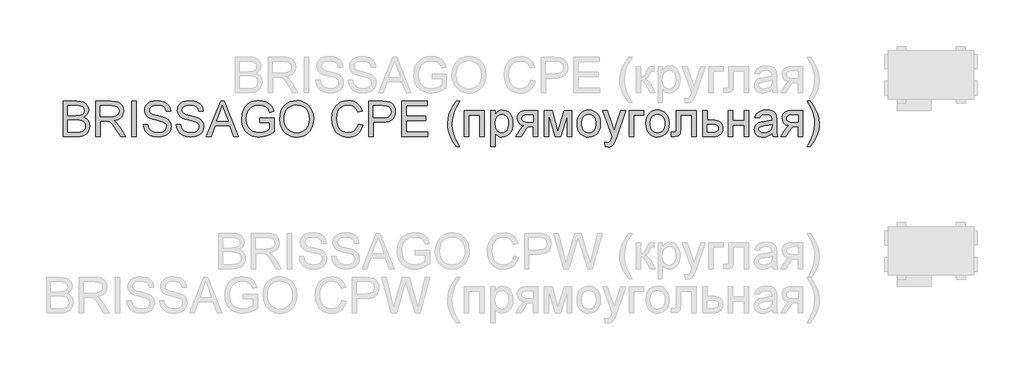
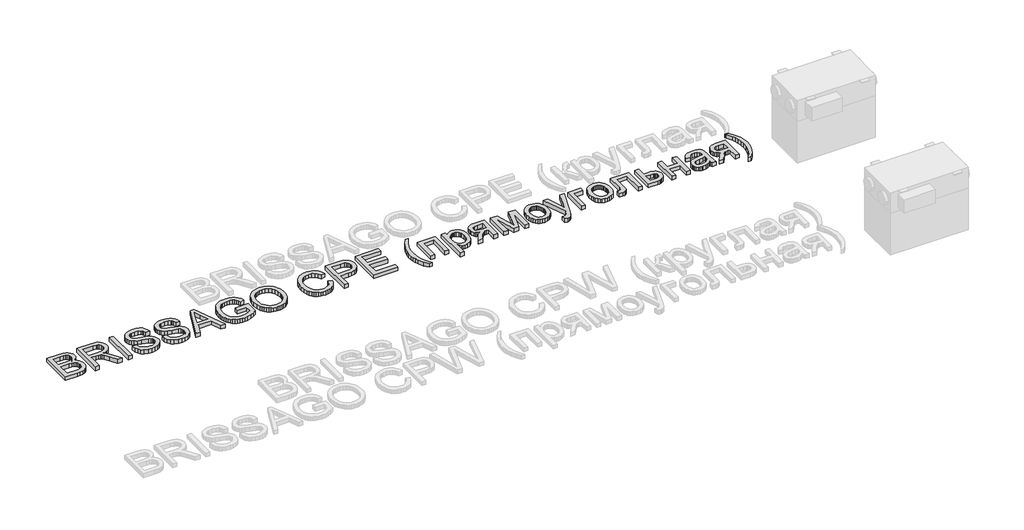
# One storey, part 18 of 28: 1 proxy.
"""IFC4 building model written with IfcOpenShell, lengths in millimetres."""

import ifcopenshell
import ifcopenshell.guid

model = None  # the IFC model being written
_history = None  # IfcOwnerHistory: only IFC2X3 demands one
_inside = {}  # id of a spatial element -> (the spatial element, [elements in it])
_under = {}  # id of a project, library or spatial element -> (it, [spatial elements below it])
_declared = {}  # id of a project -> (the project, [libraries it declares])
_typed = {}  # id of a type object -> (the type object, [elements of that type])
_made_of = {}  # id of a material, layer set ... -> (it, [elements and type objects made of it])


def new_model(schema):
    """Start an empty IFC model of exactly this schema.

    Asked for "IFC4X3", IfcOpenShell would pick the latest addendum, in which some entities
    have other attributes; the version numbers below select the first issue.
    IFC2X3 requires an IfcOwnerHistory on every rooted entity: one is made here for all.
    """
    global model, _history
    if schema == "IFC4X3":
        model = ifcopenshell.file(schema_version=(4, 3, 0, 0))
    else:
        model = ifcopenshell.file(schema=schema)
    _inside.clear()
    _under.clear()
    _declared.clear()
    _typed.clear()
    _made_of.clear()
    _history = None
    if model.schema == "IFC2X3":
        org = make("IfcOrganization", Name="unknown")
        user = make(
            "IfcPersonAndOrganization",
            ThePerson=make("IfcPerson", FamilyName="unknown"),
            TheOrganization=org,
        )
        app = make(
            "IfcApplication",
            ApplicationDeveloper=org,
            Version="unknown",
            ApplicationFullName="unknown",
            ApplicationIdentifier="unknown",
        )
        _history = make(
            "IfcOwnerHistory",
            OwningUser=user,
            OwningApplication=app,
            ChangeAction="ADDED",
            CreationDate=0,
        )
    return model


def make(cls, **values):
    """One entity of the class cls with the attributes given. An attribute that is None is left unset."""
    return model.create_entity(
        cls, **{name: value for name, value in values.items() if value is not None}
    )


def rooted(cls, **values):
    """An entity with a GlobalId (a new one), such as an element, a storey or a relation."""
    return make(cls, GlobalId=ifcopenshell.guid.new(), OwnerHistory=_history, **values)


def si_unit(unit_type, name, prefix=None):
    """IfcSIUnit, for example si_unit("LENGTHUNIT", "METRE", prefix="MILLI")."""
    return make("IfcSIUnit", UnitType=unit_type, Prefix=prefix, Name=name)


def assignment(units):
    """IfcUnitAssignment: the units of a project."""
    return None if units is None else make("IfcUnitAssignment", Units=units)


def point(xyz):
    """IfcCartesianPoint."""
    return None if xyz is None else make("IfcCartesianPoint", Coordinates=xyz)


def direction(xyz):
    """IfcDirection."""
    return None if xyz is None else make("IfcDirection", DirectionRatios=xyz)


def frame(location, z_axis=None, x_axis=None):
    """IfcAxis2Placement3D, a coordinate frame: its origin and axes. An axis left out is left unset."""
    return make(
        "IfcAxis2Placement3D",
        Location=point(location),
        Axis=direction(z_axis),
        RefDirection=direction(x_axis),
    )


def origin():
    """The frame at (0, 0, 0) with its axes left unset."""
    return frame((0.0, 0.0, 0.0))


def origin_with_axes():
    """The frame at (0, 0, 0) with the z axis (0, 0, 1) and the x axis (1, 0, 0) written out."""
    return frame((0.0, 0.0, 0.0), z_axis=(0.0, 0.0, 1.0), x_axis=(1.0, 0.0, 0.0))


def place(relative_to, where):
    """IfcLocalPlacement: puts the frame where relative to a parent placement (None: the world)."""
    return make(
        "IfcLocalPlacement", PlacementRelTo=relative_to, RelativePlacement=where
    )


def context(
    kind, dimensions, precision=None, world=None, true_north=None, identifier=None
):
    """IfcGeometricRepresentationContext, for example the 3D "Model" context."""
    return make(
        "IfcGeometricRepresentationContext",
        ContextIdentifier=identifier,
        ContextType=kind,
        CoordinateSpaceDimension=dimensions,
        Precision=precision,
        WorldCoordinateSystem=world,
        TrueNorth=true_north,
    )


def project(units=None, contexts=None):
    """IfcProject with its units and contexts."""
    return rooted(
        "IfcProject",
        Name="project",
        RepresentationContexts=contexts,
        UnitsInContext=assignment(units),
    )


def spatial(cls, under=None, at=None, **own):
    """A site, building, storey or space (cls), placed at a placement, below another one or the project."""
    s = rooted(cls, ObjectPlacement=at, **own)
    if under is not None:
        _under.setdefault(under.id(), (under, []))[1].append(s)
    return s


def polyline(points):
    """IfcPolyline through the points."""
    return make("IfcPolyline", Points=[point(p) for p in points])


def outline(outer, holes=None, kind="AREA"):
    """IfcArbitraryClosedProfileDef: a profile drawn as a closed curve; with holes, ...WithVoids."""
    if holes is None:
        return make("IfcArbitraryClosedProfileDef", ProfileType=kind, OuterCurve=outer)
    return make(
        "IfcArbitraryProfileDefWithVoids",
        ProfileType=kind,
        OuterCurve=outer,
        InnerCurves=holes,
    )


def extrude(swept, where, along, depth):
    """IfcExtrudedAreaSolid: the profile swept, set in the frame where, extruded along a direction by depth."""
    return make(
        "IfcExtrudedAreaSolid",
        SweptArea=swept,
        Position=where,
        ExtrudedDirection=direction(along),
        Depth=depth,
    )


def shape(context_of_items, identifier, shape_type, items):
    """IfcShapeRepresentation: the items that make up one representation, for example the "Body"."""
    return make(
        "IfcShapeRepresentation",
        ContextOfItems=context_of_items,
        RepresentationIdentifier=identifier,
        RepresentationType=shape_type,
        Items=items,
    )


def made_of(thing, what):
    """Note that an element or type object is made of a material, layer set ...; save() writes the relation."""
    if what is not None:
        _made_of.setdefault(what.id(), (what, []))[1].append(thing)
    return thing


def element(
    cls,
    number,
    at=None,
    inside=None,
    cuts=None,
    type_object=None,
    material=None,
    context=None,
    identifier="Body",
    shape_type=None,
    held_by="IfcProductDefinitionShape",
    body=None,
    shapes=None,
    **own,
):
    """One element of the class cls, such as IfcWall. Its Tag is "e" and its number.

    at: its placement. inside: the storey or other place that contains it. cuts: it is an
    opening in that element (IfcRelVoidsElement). A single representation is given by context,
    identifier, shape_type and body (its items); several are given by shapes. held_by: the class
    of the entity that holds the representations. save() writes the other relations.
    """
    e = rooted(cls, Tag="e%d" % number, ObjectPlacement=at, **own)
    if body is not None:
        shapes = [shape(context, identifier, shape_type, body)]
    if shapes is not None:
        e.Representation = make(held_by, Representations=shapes)
    if inside is not None:
        _inside.setdefault(inside.id(), (inside, []))[1].append(e)
    if cuts is not None:
        rooted(
            "IfcRelVoidsElement", RelatingBuildingElement=cuts, RelatedOpeningElement=e
        )
    if type_object is not None:
        _typed.setdefault(type_object.id(), (type_object, []))[1].append(e)
    return made_of(e, material)


def aggregate(whole, parts):
    """IfcRelAggregates: a whole, such as a stair, and the parts it consists of."""
    return rooted("IfcRelAggregates", RelatingObject=whole, RelatedObjects=parts)


def save(model, path):
    """Write the relations noted so far, then the file.

    IfcRelAggregates (storeys below a building ...), IfcRelContainedInSpatialStructure (elements
    in a storey), IfcRelDefinesByType, IfcRelAssociatesMaterial and IfcRelDeclares: one each for
    every whole, place, type object, material and project.
    """
    for whole, parts in _under.values():
        aggregate(whole, parts)
    for where, things in _inside.values():
        rooted(
            "IfcRelContainedInSpatialStructure",
            RelatedElements=things,
            RelatingStructure=where,
        )
    for kind, things in _typed.values():
        rooted("IfcRelDefinesByType", RelatedObjects=things, RelatingType=kind)
    for what, things in _made_of.values():
        rooted("IfcRelAssociatesMaterial", RelatedObjects=things, RelatingMaterial=what)
    for by, libraries in _declared.values():
        rooted("IfcRelDeclares", RelatingContext=by, RelatedDefinitions=libraries)
    model.write(path)


model = new_model("IFC4")

# Units and contexts
model_context = context("Model", 3, world=origin())
ifc_project = project(units=[si_unit("LENGTHUNIT", "METRE", prefix="MILLI")], contexts=[model_context])

# Site, building, storey
site = spatial("IfcSite", under=ifc_project)
building = spatial("IfcBuilding", under=site)
storey = spatial("IfcBuildingStorey", under=building, Name="Уровень 1", Elevation=0.0)

# Proxy
placement = place(None, origin())
element("IfcBuildingElementProxy", 1, Name="400 мм Arial", ObjectType="400 мм Arial", at=placement, inside=storey, context=model_context, shape_type="SweptSolid", body=[
    extrude(outline(polyline([(-30517.6155506, 9771.3067858), (-30517.6155506, 10173.1320263), (-30364.282335, 10173.1320263), (-30322.1107957, 10170.1767077), (-30289.1853571, 10161.3107516), (-30263.9486522, 10146.3134289), (-30244.8433139, 10124.9640104), (-30232.8135727, 10099.8499329), (-30228.803659, 10073.558633), (-30232.1759106, 10049.3642604), (-30242.2926654, 10026.6168904), (-30259.2275, 10006.7144745), (-30283.0539905, 9991.0549642), (-30254.5921868, 9976.1925316), (-30233.5615994, 9953.5800516), (-30220.575365, 9924.7135777), (-30216.2466202, 9891.0891634), (-30219.2019389, 9863.0688181), (-30228.067895, 9837.0840865), (-30241.2993841, 9814.9866413), (-30257.3513018, 9798.6281553), (-30277.0084631, 9786.782355), (-30301.0556828, 9778.2229673), (-30330.277776, 9773.0358311), (-30365.4595574, 9771.3067858), (-30517.6155506, 9771.3067858)]), holes=[polyline([(-30467.3873956, 10009.8905224), (-30375.6621514, 10009.8905224), (-30322.0985329, 10014.2070044), (-30303.3488139, 10021.6504835), (-30289.8720702, 10032.7973079), (-30281.7418781, 10047.4757995), (-30279.031814, 10065.51428), (-30281.5579371, 10083.025463), (-30289.1363062, 10098.2803031), (-30301.4235648, 10110.187417), (-30318.0763565, 10117.6554215), (-30343.6318924, 10121.5917588), (-30382.6273839, 10122.9038713), (-30467.3873956, 10122.9038713), (-30467.3873956, 10009.8905224)]), polyline([(-30467.3873956, 9821.5349408), (-30364.3804369, 9821.5349408), (-30327.1017281, 9823.4969781), (-30295.5619783, 9834.4353361), (-30283.9859582, 9843.8653779), (-30274.666281, 9856.7535105), (-30268.5226517, 9872.5233854), (-30266.4747753, 9890.5986541), (-30268.878271, 9911.5924532), (-30276.0887581, 9929.6431965), (-30288.682585, 9943.7576024), (-30307.2361003, 9952.9423895), (-30333.5151375, 9957.9823728), (-30369.2855302, 9959.6623673), (-30467.3873956, 9959.6623673), (-30467.3873956, 9821.5349408)])]), origin_with_axes(), (0.0, 0.0, 1.0), 50.0),
    extrude(outline(polyline([(-30147.182907, 9771.3067858), (-30147.182907, 10173.1320263), (-29974.0331146, 10173.1320263), (-29927.4960422, 10170.4219623), (-29893.6386359, 10162.2917702), (-29868.8924403, 10147.2821848), (-29849.6890002, 10123.9339409), (-29837.3649534, 10094.9816278), (-29833.2569377, 10063.1598353), (-29834.958392, 10042.5216553), (-29840.0627547, 10023.5757326), (-29848.5700258, 10006.322067), (-29860.4802054, 9990.7606586), (-29875.9465776, 9977.3881481), (-29895.1224266, 9966.7011761), (-29918.0077524, 9958.6997427), (-29944.6025549, 9953.3838479), (-29916.0549121, 9931.8995394), (-29875.342638, 9880.1998563), (-29808.3390639, 9771.3067858), (-29866.7096738, 9771.3067858), (-29918.9979681, 9854.5952695), (-29956.7671863, 9909.7285178), (-29970.8080157, 9925.804961), (-29983.3037408, 9935.7745631), (-30007.1915451, 9945.3394949), (-30036.3277991, 9947.1053285), (-30096.9547519, 9947.1053285), (-30096.9547519, 9771.3067858), (-30147.182907, 9771.3067858)]), holes=[polyline([(-30096.9547519, 9997.3334836), (-29984.5300142, 9997.3334836), (-29952.2422377, 9999.1115799), (-29927.1894738, 10004.4458688), (-29908.3293902, 10013.6919696), (-29894.6196545, 10027.2055016), (-29886.2687332, 10043.5517249), (-29883.4850928, 10061.2958998), (-29888.7948563, 10085.7968407), (-29904.7241467, 10105.5398411), (-29916.8857123, 10113.1366043), (-29932.1313553, 10118.5628637), (-29971.8748735, 10122.9038713), (-30096.9547519, 10122.9038713), (-30096.9547519, 9997.3334836)])]), origin_with_axes(), (0.0, 0.0, 1.0), 50.0),
    extrude(outline(polyline([(-29739.079147, 9771.3067858), (-29739.079147, 10173.1320263), (-29688.8509919, 10173.1320263), (-29688.8509919, 9771.3067858), (-29739.079147, 9771.3067858)])), origin_with_axes(), (0.0, 0.0, 1.0), 50.0),
    extrude(outline(polyline([(-29607.2302399, 9909.4342122), (-29557.0020848, 9909.4342122), (-29551.2386002, 9881.5610197), (-29540.815277, 9859.1570062), (-29524.5548929, 9841.3760431), (-29501.2802253, 9827.3720018), (-29472.8306843, 9818.2853165), (-29441.04568, 9815.2564214), (-29413.0621229, 9817.5495525), (-29388.561182, 9824.4289459), (-29368.707817, 9835.3182529), (-29354.6669875, 9849.6411253), (-29346.3160662, 9866.0854504), (-29343.5324258, 9883.339116), (-29345.6170904, 9900.1513232), (-29351.8710843, 9914.682662), (-29364.5752759, 9927.0802852), (-29386.0105335, 9937.4913457), (-29459.1454741, 9956.6702604), (-29507.1540745, 9969.3621892), (-29537.8722211, 9981.4409814), (-29562.875934, 9998.3390277), (-29580.5955835, 10018.8177921), (-29591.1537967, 10042.4358162), (-29594.6732011, 10068.7516416), (-29590.3199309, 10098.1699385), (-29577.26012, 10125.6016726), (-29555.8371252, 10148.8518147), (-29526.3943028, 10165.7253355), (-29491.0531058, 10175.9892432), (-29451.934987, 10179.4105457), (-29409.5549812, 10175.8298276), (-29372.4724761, 10165.0876734), (-29342.0118468, 10147.4048122), (-29319.4974687, 10123.0019731), (-29305.2481728, 10093.3997353), (-29299.5827901, 10060.1186774), (-29349.8109451, 10060.1186774), (-29359.0325205, 10090.0887973), (-29367.3957045, 10101.9468603), (-29378.2604861, 10111.7202586), (-29408.3041824, 10124.8168576), (-29449.9729497, 10129.1823907), (-29492.6227357, 10124.8659086), (-29508.9260394, 10119.470306), (-29521.881617, 10111.9164624), (-29538.8041888, 10092.860175), (-29544.4450461, 10070.2231696), (-29540.447395, 10050.9216276), (-29528.454442, 10035.3970074), (-29500.1030029, 10021.5155934), (-29446.4412825, 10007.3398739), (-29391.0627795, 9993.8753928), (-29357.5609925, 9982.1276945), (-29328.9275106, 9963.905273), (-29308.9515182, 9941.4154203), (-29297.2160826, 9914.9033912), (-29293.3042707, 9884.6144403), (-29297.8046938, 9853.651039), (-29311.305963, 9824.5270477), (-29333.2562554, 9799.4620211), (-29363.1037479, 9780.6755139), (-29398.9967679, 9768.9400782), (-29439.0836426, 9765.0282664), (-29488.2939909, 9769.2466466), (-29528.7977985, 9781.9017872), (-29561.0610495, 9803.0427392), (-29585.5497277, 9832.7185535), (-29601.2705516, 9868.8690909), (-29607.2302399, 9909.4342122)])), origin_with_axes(), (0.0, 0.0, 1.0), 50.0),
    extrude(outline(polyline([(-29236.7975962, 9909.4342122), (-29186.5694412, 9909.4342122), (-29180.8059566, 9881.5610197), (-29170.3826334, 9859.1570062), (-29154.1222492, 9841.3760431), (-29130.8475816, 9827.3720018), (-29102.3980407, 9818.2853165), (-29070.6130363, 9815.2564214), (-29042.6294792, 9817.5495525), (-29018.1285383, 9824.4289459), (-28998.2751733, 9835.3182529), (-28984.2343438, 9849.6411253), (-28975.8834225, 9866.0854504), (-28973.0997821, 9883.339116), (-28975.1844467, 9900.1513232), (-28981.4384406, 9914.682662), (-28994.1426322, 9927.0802852), (-29015.5778898, 9937.4913457), (-29088.7128304, 9956.6702604), (-29136.7214308, 9969.3621892), (-29167.4395774, 9981.4409814), (-29192.4432903, 9998.3390277), (-29210.1629398, 10018.8177921), (-29220.721153, 10042.4358162), (-29224.2405575, 10068.7516416), (-29219.8872872, 10098.1699385), (-29206.8274764, 10125.6016726), (-29185.4044815, 10148.8518147), (-29155.9616592, 10165.7253355), (-29120.6204622, 10175.9892432), (-29081.5023433, 10179.4105457), (-29039.1223375, 10175.8298276), (-29002.0398324, 10165.0876734), (-28971.5792032, 10147.4048122), (-28949.0648251, 10123.0019731), (-28934.8155291, 10093.3997353), (-28929.1501464, 10060.1186774), (-28979.3783015, 10060.1186774), (-28988.5998768, 10090.0887973), (-28996.9630608, 10101.9468603), (-29007.8278424, 10111.7202586), (-29037.8715387, 10124.8168576), (-29079.540306, 10129.1823907), (-29122.190092, 10124.8659086), (-29138.4933958, 10119.470306), (-29151.4489733, 10111.9164624), (-29168.3715451, 10092.860175), (-29174.0124024, 10070.2231696), (-29170.0147514, 10050.9216276), (-29158.0217983, 10035.3970074), (-29129.6703592, 10021.5155934), (-29076.0086389, 10007.3398739), (-29020.6301359, 9993.8753928), (-28987.1283488, 9982.1276945), (-28958.4948669, 9963.905273), (-28938.5188745, 9941.4154203), (-28926.7834389, 9914.9033912), (-28922.871627, 9884.6144403), (-28927.3720501, 9853.651039), (-28940.8733193, 9824.5270477), (-28962.8236117, 9799.4620211), (-28992.6711042, 9780.6755139), (-29028.5641242, 9768.9400782), (-29068.650999, 9765.0282664), (-29117.8613472, 9769.2466466), (-29158.3651549, 9781.9017872), (-29190.6284058, 9803.0427392), (-29215.117084, 9832.7185535), (-29230.8379079, 9868.8690909), (-29236.7975962, 9909.4342122)])), origin_with_axes(), (0.0, 0.0, 1.0), 50.0),
    extrude(outline(polyline([(-28894.3239842, 9771.3067858), (-28733.9274343, 10173.1320263), (-28691.155021, 10173.1320263), (-28530.7584711, 9771.3067858), (-28583.8315803, 9771.3067858), (-28629.8413551, 9896.8771734), (-28795.339202, 9896.8771734), (-28841.250875, 9771.3067858), (-28894.3239842, 9771.3067858)]), holes=[polyline([(-28776.8960513, 9947.1053285), (-28648.1864039, 9947.1053285), (-28684.3859923, 10045.893907), (-28712.5412276, 10122.9038713), (-28737.5572033, 10054.5268711), (-28776.8960513, 9947.1053285)])]), origin_with_axes(), (0.0, 0.0, 1.0), 50.0),
    extrude(outline(polyline([(-28288.7411692, 9928.2697704), (-28288.7411692, 9978.4979254), (-28125.4996652, 9978.4979254), (-28125.4996652, 9828.3039695), (-28165.169607, 9800.7128199), (-28206.0903476, 9780.9207686), (-28248.1637851, 9769.0013919), (-28291.2918177, 9765.0282664), (-28320.1429632, 9766.6070933), (-28347.6390766, 9771.343574), (-28373.7801581, 9779.2377084), (-28398.5662075, 9790.2894967), (-28421.1970816, 9804.3333919), (-28440.8726369, 9821.203847), (-28457.5928736, 9840.9008622), (-28471.3577916, 9863.4244373), (-28482.1091429, 9888.0541369), (-28489.7886796, 9914.0695253), (-28494.3964015, 9941.4706026), (-28495.9323089, 9970.2573687), (-28489.813205, 10026.8498823), (-28482.1643252, 10053.6654141), (-28471.4558935, 10079.4937958), (-28457.8779822, 10103.2007247), (-28441.6206637, 10123.651898), (-28422.683938, 10140.8473156), (-28401.0678051, 10154.7869775), (-28377.2413145, 10165.5597886), (-28351.6735158, 10173.2546537), (-28324.3644091, 10177.8715727), (-28295.3139942, 10179.4105457), (-28253.9395324, 10175.8420904), (-28216.7344, 10165.1367243), (-28185.4031167, 10148.0669997), (-28161.6502026, 10125.4054688), (-28144.077706, 10096.0607484), (-28131.2876753, 10058.941455), (-28177.5917557, 10045.893907), (-28187.9292398, 10072.3691479), (-28200.4985413, 10092.3451402), (-28217.1268075, 10107.4037765), (-28239.6411856, 10119.1269495), (-28266.4843085, 10126.6685304), (-28296.0988091, 10129.1823907), (-28330.7655558, 10126.4723266), (-28360.4045819, 10118.3421345), (-28384.9055227, 10105.8096212), (-28404.1580138, 10089.8925936), (-28418.9346073, 10071.4126547), (-28430.0078553, 10051.1914077), (-28441.7800792, 10013.2750367), (-28445.7041538, 9972.3175079), (-28440.9830015, 9924.2843821), (-28426.8195447, 9884.7615931), (-28403.642979, 9854.0311837), (-28371.8825001, 9832.375197), (-28334.7141559, 9819.5361153), (-28295.3139942, 9815.2564214), (-28260.5246202, 9818.4815203), (-28226.5936375, 9828.1568167), (-28197.1262897, 9841.4864077), (-28175.7278203, 9855.67439), (-28175.7278203, 9928.2697704), (-28288.7411692, 9928.2697704)])), origin_with_axes(), (0.0, 0.0, 1.0), 50.0),
    extrude(outline(polyline([(-28062.7144714, 9966.9219053), (-28059.3667452, 10014.0537203), (-28049.3235667, 10055.7776699), (-28032.584936, 10092.0937542), (-28009.1508529, 10123.0019731), (-27980.4254004, 10147.6807237), (-27947.8126615, 10165.3084026), (-27911.3126362, 10175.8850099), (-27870.9253245, 10179.4105457), (-27843.8921293, 10177.7550768), (-27818.2200974, 10172.7886698), (-27793.9092288, 10164.5113249), (-27770.9595237, 10152.9230421), (-27750.0147755, 10138.3733092), (-27731.7187776, 10121.2116141), (-27716.07153, 10101.4379569), (-27703.0730329, 10079.0523374), (-27692.8581761, 10054.5636593), (-27685.5618499, 10028.4808258), (-27679.7247889, 9971.532693), (-27681.2606962, 9941.8752728), (-27685.8684182, 9913.8242707), (-27693.5479549, 9887.3796866), (-27704.2993062, 9862.5415206), (-27717.8680204, 9839.9658288), (-27733.9996459, 9820.3086675), (-27752.6941827, 9803.5700367), (-27773.9516306, 9789.7499364), (-27796.9350583, 9778.9342058), (-27820.8075341, 9771.2086839), (-27845.569058, 9766.5733707), (-27871.2196301, 9765.0282664), (-27898.7249406, 9766.735852), (-27924.7341977, 9771.8586087), (-27949.2474013, 9780.3965367), (-27972.2645515, 9792.3496359), (-27993.1847743, 9807.254988), (-28011.4071958, 9824.6496751), (-28026.931816, 9844.5336969), (-28039.7586349, 9866.9070536), (-28056.9755122, 9915.5287906), (-28062.7144714, 9966.9219053)]), holes=[polyline([(-28012.4863163, 9966.431396), (-28009.9755217, 9933.1319441), (-28002.4431378, 9903.5726258), (-27989.8891647, 9877.7534411), (-27972.3136024, 9855.67439), (-27950.9488555, 9837.9915287), (-27927.0273288, 9825.3609136), (-27900.5490222, 9817.7825445), (-27871.5139357, 9815.2564214), (-27841.9822086, 9817.8070699), (-27815.1912023, 9825.4590154), (-27791.1409168, 9838.2122579), (-27769.8313523, 9856.0667974), (-27752.3845486, 9878.6118324), (-27739.9225461, 9905.4365612), (-27732.4453445, 9936.5409839), (-27729.952944, 9971.9251005), (-27734.2203751, 10016.3897709), (-27747.0226686, 10054.8211767), (-27768.0287305, 10086.2505618), (-27796.9074671, 10109.7091704), (-27831.7458921, 10124.3140856), (-27870.6310189, 10129.1823907), (-27898.6574956, 10126.8371429), (-27924.6606213, 10119.8013998), (-27948.640396, 10108.0751612), (-27970.5968198, 10091.6584272), (-27988.9234745, 10069.7602514), (-28002.0139422, 10041.5896876), (-28009.8682227, 10007.1467358), (-28012.4863163, 9966.431396)])]), origin_with_axes(), (0.0, 0.0, 1.0), 50.0),
    extrude(outline(polyline([(-27171.1647188, 9914.1431017), (-27120.9365637, 9901.1936555), (-27130.8755089, 9869.9574084), (-27144.1131294, 9842.6636301), (-27160.6494251, 9819.3123204), (-27180.484396, 9799.9034795), (-27203.1704524, 9784.6455738), (-27228.2600044, 9773.7470697), (-27255.7530522, 9767.2079672), (-27285.6495957, 9765.0282664), (-27316.2788375, 9766.677604), (-27343.909841, 9771.6256168), (-27368.5426062, 9779.8723049), (-27390.1771332, 9791.4176682), (-27409.1107933, 9806.0900284), (-27425.6409576, 9823.7177073), (-27439.7676262, 9844.300705), (-27451.4907991, 9867.8390213), (-27467.2729367, 9919.7103826), (-27472.5336492, 9975.2605639), (-27466.5862236, 10033.851903), (-27459.1519417, 10060.1493343), (-27448.7439469, 10084.44794), (-27435.5952312, 10106.3461158), (-27419.9387866, 10125.442257), (-27401.7746131, 10141.7363637), (-27381.1027107, 10155.2284359), (-27358.6251208, 10165.808109), (-27335.0438849, 10173.3650183), (-27284.5704752, 10179.4105457), (-27255.841957, 10177.4546398), (-27229.4985405, 10171.586922), (-27205.5402255, 10161.8073923), (-27183.9670122, 10148.1160507), (-27165.1345197, 10130.8746478), (-27149.3983674, 10110.4449344), (-27136.7585552, 10086.8269103), (-27127.2150831, 10060.0205756), (-27177.4432382, 10048.052148), (-27194.8563193, 10084.680932), (-27218.6460216, 10109.8072722), (-27249.1066508, 10124.3386111), (-27286.5325125, 10129.1823907), (-27329.6728078, 10123.8113135), (-27348.3550818, 10117.0974671), (-27365.1121066, 10107.6980821), (-27392.0042805, 10082.5349537), (-27409.5032007, 10050.0141853), (-27419.1049208, 10013.2505112), (-27422.3054942, 9975.3586657), (-27418.5163096, 9928.9564834), (-27407.148756, 9888.8328205), (-27387.7736375, 9856.5205186), (-27359.9617587, 9833.5524193), (-27326.6193872, 9819.8304209), (-27290.6527908, 9815.2564214), (-27268.8159287, 9816.8137886), (-27248.7265061, 9821.4858899), (-27230.384523, 9829.2727255), (-27213.7899793, 9840.1742952), (-27199.3352826, 9854.1415483), (-27187.4128402, 9871.1254338), (-27178.0226523, 9891.1259516), (-27171.1647188, 9914.1431017)])), origin_with_axes(), (0.0, 0.0, 1.0), 50.0),
    extrude(outline(polyline([(-27051.8728505, 9771.3067858), (-27051.8728505, 10173.1320263), (-26902.9542188, 10173.1320263), (-26842.9158772, 10169.3060536), (-26816.1463307, 10162.1568802), (-26794.1101992, 10150.5195464), (-26776.3660243, 10133.8667547), (-26762.4723476, 10111.6712077), (-26753.4960269, 10085.4902724), (-26750.50392, 10056.8813159), (-26752.5242053, 10032.2148281), (-26758.5850612, 10009.5226404), (-26768.6864876, 9988.8047527), (-26782.8284847, 9970.061165), (-26802.243457, 9954.5242821), (-26828.1638092, 9943.4265086), (-26860.5895414, 9936.7678444), (-26899.5206535, 9934.5482897), (-27001.6446954, 9934.5482897), (-27001.6446954, 9771.3067858), (-27051.8728505, 9771.3067858)]), holes=[polyline([(-27001.6446954, 9984.7764448), (-26896.5775976, 9984.7764448), (-26852.0393507, 9989.3872325), (-26835.43561, 9995.1507171), (-26822.6087911, 10003.2195955), (-26813.0377278, 10013.3792699), (-26806.2012541, 10025.4151426), (-26800.7320751, 10055.1154823), (-26803.9571739, 10077.6789113), (-26813.6324704, 10096.7106732), (-26828.5562167, 10111.0335456), (-26847.5266649, 10119.470306), (-26897.75482, 10122.9038713), (-27001.6446954, 10122.9038713), (-27001.6446954, 9984.7764448)])]), origin_with_axes(), (0.0, 0.0, 1.0), 50.0),
    extrude(outline(polyline([(-26681.4402068, 9771.3067858), (-26681.4402068, 10173.1320263), (-26392.6283151, 10173.1320263), (-26392.6283151, 10122.9038713), (-26631.2120517, 10122.9038713), (-26631.2120517, 10003.612003), (-26405.1853539, 10003.612003), (-26405.1853539, 9953.3838479), (-26631.2120517, 9953.3838479), (-26631.2120517, 9821.5349408), (-26386.3497957, 9821.5349408), (-26386.3497957, 9771.3067858), (-26681.4402068, 9771.3067858)])), origin_with_axes(), (0.0, 0.0, 1.0), 50.0),
    extrude(outline(polyline([(-26059.8667877, 9658.2934368), (-26098.7887028, 9712.9116504), (-26131.1868439, 9776.1137772), (-26143.933955, 9810.1673872), (-26153.0390344, 9844.8341339), (-26158.502082, 9880.1140172), (-26160.3230979, 9916.0070372), (-26154.8784444, 9978.424349), (-26138.5444838, 10038.1438596), (-26106.1218173, 10105.7850958), (-26059.8667877, 10173.1320263), (-26022.1956714, 10173.1320263), (-26069.186465, 10093.5714135), (-26085.2261199, 10055.8021954), (-26097.4398022, 10016.4633473), (-26106.9311577, 9966.2106668), (-26110.0949428, 9915.7127316), (-26104.6012384, 9851.3211197), (-26088.120125, 9786.9540333), (-26060.6516027, 9722.6114723), (-26022.1956714, 9658.2934368), (-26059.8667877, 9658.2934368)])), origin_with_axes(), (0.0, 0.0, 1.0), 50.0),
    extrude(outline(polyline([(-25971.9675164, 10066.3971968), (-25745.9408185, 10066.3971968), (-25745.9408185, 9771.3067858), (-25796.1689736, 9771.3067858), (-25796.1689736, 10016.1690417), (-25921.7393613, 10016.1690417), (-25921.7393613, 9771.3067858), (-25971.9675164, 9771.3067858), (-25971.9675164, 10066.3971968)])), origin_with_axes(), (0.0, 0.0, 1.0), 50.0),
    extrude(outline(polyline([(-25670.5985859, 9658.2934368), (-25670.5985859, 10066.3971968), (-25620.3704308, 10066.3971968), (-25620.3704308, 10017.1500604), (-25603.9874193, 10041.4425348), (-25585.6423705, 10058.7943022), (-25564.2561638, 10069.2053627), (-25538.7496788, 10072.6757162), (-25504.781908, 10067.8196739), (-25475.0815682, 10053.2515469), (-25450.8994584, 10029.854252), (-25433.4863773, 9998.510706), (-25422.9649522, 9961.5017773), (-25419.4578105, 9921.1083342), (-25423.4186734, 9878.1519799), (-25435.3012618, 9839.7328369), (-25454.7254311, 9807.8006797), (-25481.3110367, 9784.3052829), (-25512.2744379, 9769.8475205), (-25544.8319945, 9765.0282664), (-25567.9227211, 9768.2533652), (-25588.5363755, 9777.9286617), (-25606.1824486, 9792.5335769), (-25620.3704308, 9810.5475319), (-25620.3704308, 9658.2934368), (-25670.5985859, 9658.2934368)]), holes=[polyline([(-25620.3704308, 9916.4975465), (-25614.93804, 9871.4687903), (-25608.1475516, 9854.0311837), (-25598.6408677, 9839.9780915), (-25574.5936479, 9821.436839), (-25560.8317956, 9816.8015258), (-25545.911115, 9815.2564214), (-25530.7758366, 9816.8567081), (-25516.7625983, 9821.6575682), (-25503.8714, 9829.6590016), (-25492.1022419, 9840.8610083), (-25482.295121, 9855.4230039), (-25475.2900347, 9873.504404), (-25471.0869829, 9895.1052085), (-25469.6859656, 9920.2254174), (-25475.1551446, 9965.0089189), (-25481.9916184, 9982.5814156), (-25491.5626816, 9996.9410761), (-25515.5731132, 10016.0709399), (-25529.1786156, 10020.8534058), (-25543.8509758, 10022.4475611), (-25558.4773508, 10020.7522383), (-25572.2392031, 10015.6662697), (-25597.1693397, 9995.3223953), (-25607.3198171, 9980.2239051), (-25614.5701581, 9962.0536003), (-25618.9203626, 9940.8114807), (-25620.3704308, 9916.4975465)])]), origin_with_axes(), (0.0, 0.0, 1.0), 50.0),
    extrude(outline(polyline([(-25136.9244382, 10066.3971968), (-25136.9244382, 9771.3067858), (-25187.1525933, 9771.3067858), (-25187.1525933, 9884.3201347), (-25214.5230138, 9884.3201347), (-25236.3506788, 9882.7259794), (-25251.8017226, 9877.9435134), (-25266.6886807, 9864.037574), (-25286.8240885, 9835.0729982), (-25326.8496496, 9771.3067858), (-25384.9259539, 9771.3067858), (-25334.5015951, 9851.9465191), (-25312.2324717, 9880.8865694), (-25291.7291818, 9893.7379137), (-25326.0648347, 9904.2593388), (-25339.4066884, 9913.0701126), (-25350.1978936, 9924.2475939), (-25364.471715, 9950.8331994), (-25369.2296555, 9981.1466758), (-25367.6048433, 9999.2342072), (-25362.7304069, 10015.5313796), (-25354.6063462, 10030.038193), (-25343.2326611, 10042.7546473), (-25328.7810301, 10053.0982627), (-25311.4231313, 10060.4865594), (-25291.1589647, 10064.9195375), (-25267.9885304, 10066.3971968), (-25136.9244382, 10066.3971968)]), holes=[polyline([(-25187.1525933, 10016.1690417), (-25253.3713525, 10016.1690417), (-25287.5721153, 10013.262774), (-25306.9840219, 10004.5439707), (-25315.9971308, 9991.9256183), (-25319.0015004, 9977.3207031), (-25314.5746537, 9958.1785766), (-25301.2941137, 9944.8980365), (-25276.7563846, 9937.1357264), (-25238.5579708, 9934.5482897), (-25187.1525933, 9934.5482897), (-25187.1525933, 10016.1690417)])]), origin_with_axes(), (0.0, 0.0, 1.0), 50.0),
    extrude(outline(polyline([(-25061.5822056, 10066.3971968), (-24975.1544622, 10066.3971968), (-24908.5432956, 9830.167905), (-24836.7327302, 10066.3971968), (-24753.9347558, 10066.3971968), (-24753.9347558, 9771.3067858), (-24804.1629109, 9771.3067858), (-24804.1629109, 10008.9095037), (-24876.3658838, 9771.3067858), (-24942.2903373, 9771.3067858), (-25011.3540506, 10020.2893201), (-25011.3540506, 9771.3067858), (-25061.5822056, 9771.3067858), (-25061.5822056, 10066.3971968)])), origin_with_axes(), (0.0, 0.0, 1.0), 50.0),
    extrude(outline(polyline([(-24691.149562, 9918.8519913), (-24688.4333666, 9957.0687992), (-24680.2847804, 9990.0003692), (-24666.7038034, 10017.6467011), (-24647.6904356, 10040.007795), (-24628.5483091, 10054.3000105), (-24607.4196199, 10064.5087359), (-24584.3043678, 10070.6339711), (-24559.202553, 10072.6757162), (-24531.4918417, 10070.189447), (-24506.4360122, 10062.7306396), (-24484.0350644, 10050.2992938), (-24464.2889983, 10032.8954098), (-24448.1727012, 10011.1075986), (-24436.6610604, 9985.5244715), (-24429.754076, 9956.1460285), (-24427.4517478, 9922.9722696), (-24431.5229752, 9872.2290798), (-24443.7366575, 9833.6014703), (-24463.7371753, 9804.6736827), (-24491.1689094, 9783.0299587), (-24523.7509914, 9769.5286894), (-24559.202553, 9765.0282664), (-24587.3179345, 9767.5053385), (-24612.606756, 9774.9365548), (-24635.0690175, 9787.3219153), (-24654.704719, 9804.66142), (-24670.6493378, 9826.6607633), (-24682.0383512, 9853.0256396), (-24688.8717593, 9883.7560489), (-24691.149562, 9918.8519913)]), holes=[polyline([(-24640.9214069, 9918.9500931), (-24639.468273, 9894.587108), (-24635.1088714, 9873.4921413), (-24627.843202, 9855.6651929), (-24617.6712648, 9841.106263), (-24605.298167, 9829.7969573), (-24591.4290158, 9821.7188818), (-24576.0638111, 9816.8720365), (-24559.202553, 9815.2564214), (-24542.427134, 9816.8812336), (-24527.123243, 9821.75567), (-24513.29088, 9829.8797308), (-24500.930045, 9841.2534158), (-24490.7581078, 9855.9564328), (-24483.4924384, 9874.0684897), (-24479.1330368, 9895.5895865), (-24477.6799029, 9920.519723), (-24479.1422338, 9944.1101559), (-24483.5292266, 9964.6532997), (-24490.8408813, 9982.1491542), (-24501.0771978, 9996.5977196), (-24513.4840181, 10007.9070253), (-24527.307184, 10015.9851007), (-24542.5466957, 10020.831946), (-24559.202553, 10022.4475611), (-24576.0638111, 10020.8380774), (-24591.4290158, 10016.0096262), (-24605.298167, 10007.9622076), (-24617.6712648, 9996.6958215), (-24627.843202, 9982.1798111), (-24635.1088714, 9964.3835196), (-24639.468273, 9943.3069469), (-24640.9214069, 9918.9500931)])]), origin_with_axes(), (0.0, 0.0, 1.0), 50.0),
    extrude(outline(polyline([(-24370.9450734, 9658.2934368), (-24377.2235927, 9706.6576565), (-24351.7171077, 9702.2430725), (-24338.3016777, 9703.6287614), (-24327.8783545, 9707.7858279), (-24313.2611765, 9723.2368717), (-24299.5269154, 9760.221275), (-24295.6028407, 9772.3859063), (-24402.3376703, 10066.3971968), (-24349.362663, 10066.3971968), (-24292.7578866, 9902.5670816), (-24273.0394117, 9837.0350356), (-24253.3209368, 9894.9151361), (-24195.1465306, 10066.3971968), (-24142.5639308, 10066.3971968), (-24245.2765838, 9764.2434514), (-24271.9602912, 9698.7114054), (-24285.6209759, 9677.7911826), (-24301.0965452, 9663.296632), (-24319.073712, 9654.8353461), (-24340.2391895, 9652.0149174), (-24370.9450734, 9658.2934368)])), origin_with_axes(), (0.0, 0.0, 1.0), 50.0),
    extrude(outline(polyline([(-24100.9687398, 10066.3971968), (-23937.7272358, 10066.3971968), (-23937.7272358, 10016.1690417), (-24050.7405848, 10016.1690417), (-24050.7405848, 9771.3067858), (-24100.9687398, 9771.3067858), (-24100.9687398, 10066.3971968)])), origin_with_axes(), (0.0, 0.0, 1.0), 50.0),
    extrude(outline(polyline([(-23912.6131583, 9918.8519913), (-23909.8969629, 9957.0687992), (-23901.7483767, 9990.0003692), (-23888.1673997, 10017.6467011), (-23869.1540319, 10040.007795), (-23850.0119055, 10054.3000105), (-23828.8832162, 10064.5087359), (-23805.7679642, 10070.6339711), (-23780.6661494, 10072.6757162), (-23752.9554381, 10070.189447), (-23727.8996085, 10062.7306396), (-23705.4986607, 10050.2992938), (-23685.7525946, 10032.8954098), (-23669.6362975, 10011.1075986), (-23658.1246568, 9985.5244715), (-23651.2176723, 9956.1460285), (-23648.9153442, 9922.9722696), (-23652.9865716, 9872.2290798), (-23665.2002538, 9833.6014703), (-23685.2007716, 9804.6736827), (-23712.6325057, 9783.0299587), (-23745.2145878, 9769.5286894), (-23780.6661494, 9765.0282664), (-23808.7815308, 9767.5053385), (-23834.0703523, 9774.9365548), (-23856.5326138, 9787.3219153), (-23876.1683153, 9804.66142), (-23892.1129341, 9826.6607633), (-23903.5019476, 9853.0256396), (-23910.3353556, 9883.7560489), (-23912.6131583, 9918.8519913)]), holes=[polyline([(-23862.3850032, 9918.9500931), (-23860.9318693, 9894.587108), (-23856.5724677, 9873.4921413), (-23849.3067983, 9855.6651929), (-23839.1348611, 9841.106263), (-23826.7617634, 9829.7969573), (-23812.8926121, 9821.7188818), (-23797.5274075, 9816.8720365), (-23780.6661494, 9815.2564214), (-23763.8907304, 9816.8812336), (-23748.5868394, 9821.75567), (-23734.7544764, 9829.8797308), (-23722.3936413, 9841.2534158), (-23712.2217042, 9855.9564328), (-23704.9560348, 9874.0684897), (-23700.5966331, 9895.5895865), (-23699.1434992, 9920.519723), (-23700.6058302, 9944.1101559), (-23704.992823, 9964.6532997), (-23712.3044776, 9982.1491542), (-23722.5407941, 9996.5977196), (-23734.9476144, 10007.9070253), (-23748.7707804, 10015.9851007), (-23764.010292, 10020.831946), (-23780.6661494, 10022.4475611), (-23797.5274075, 10020.8380774), (-23812.8926121, 10016.0096262), (-23826.7617634, 10007.9622076), (-23839.1348611, 9996.6958215), (-23849.3067983, 9982.1798111), (-23856.5724677, 9964.3835196), (-23860.9318693, 9943.3069469), (-23862.3850032, 9918.9500931)])]), origin_with_axes(), (0.0, 0.0, 1.0), 50.0),
    extrude(outline(polyline([(-23567.2945922, 10066.3971968), (-23341.2678943, 10066.3971968), (-23341.2678943, 9771.6010913), (-23391.4960494, 9771.6010913), (-23391.4960494, 10016.1690417), (-23517.0664371, 10016.1690417), (-23517.0664371, 9875.3928649), (-23520.4509514, 9810.44943), (-23526.7907845, 9795.746413), (-23539.0412549, 9783.0299587), (-23557.6315584, 9774.237579), (-23582.9908906, 9771.3067858), (-23623.8012666, 9773.8574343), (-23623.8012666, 9821.5349408), (-23601.3359394, 9821.5349408), (-23578.6253576, 9824.6251496), (-23569.5509351, 9834.4353361), (-23567.2945922, 9878.237819), (-23567.2945922, 10066.3971968)])), origin_with_axes(), (0.0, 0.0, 1.0), 50.0),
    extrude(outline(polyline([(-23265.9256617, 10066.3971968), (-23215.6975066, 10066.3971968), (-23215.6975066, 9959.6623673), (-23157.8174061, 9959.6623673), (-23131.0969105, 9958.0896718), (-23107.6383019, 9953.3715852), (-23087.4415804, 9945.5081075), (-23070.5067459, 9934.4992388), (-23057.1158412, 9920.7251238), (-23047.5509094, 9904.5659071), (-23041.8119502, 9886.0215889), (-23039.8989639, 9865.0921691), (-23041.5268417, 9846.4190921), (-23046.4104752, 9829.1500981), (-23054.5498643, 9813.2851871), (-23065.9450091, 9798.824359), (-23080.920872, 9786.7854207), (-23099.8024154, 9778.1861791), (-23122.5896393, 9773.0266341), (-23149.2825438, 9771.3067858), (-23265.9256617, 9771.3067858), (-23265.9256617, 10066.3971968)]), holes=[polyline([(-23215.6975066, 9821.5349408), (-23168.804815, 9821.5349408), (-23132.4212857, 9824.1714285), (-23108.2269131, 9832.0808914), (-23094.6520675, 9845.5821606), (-23090.1271189, 9864.9940672), (-23093.4748451, 9881.4016042), (-23103.5180236, 9895.8961548), (-23112.2460239, 9901.8190549), (-23125.0391203, 9906.0496979), (-23162.8206012, 9909.4342122), (-23215.6975066, 9909.4342122), (-23215.6975066, 9821.5349408)])]), origin_with_axes(), (0.0, 0.0, 1.0), 50.0),
    extrude(outline(polyline([(-22977.11377, 10066.3971968), (-22926.885615, 10066.3971968), (-22926.885615, 9953.3838479), (-22795.0367079, 9953.3838479), (-22795.0367079, 10066.3971968), (-22744.8085528, 10066.3971968), (-22744.8085528, 9771.3067858), (-22795.0367079, 9771.3067858), (-22795.0367079, 9903.1556928), (-22926.885615, 9903.1556928), (-22926.885615, 9771.3067858), (-22977.11377, 9771.3067858), (-22977.11377, 10066.3971968)])), origin_with_axes(), (0.0, 0.0, 1.0), 50.0),
    extrude(outline(polyline([(-22481.1107387, 9808.9779021), (-22505.1089075, 9788.4010358), (-22529.8183148, 9774.9365548), (-22555.8030464, 9767.5053385), (-22583.627188, 9765.0282664), (-22605.9913476, 9766.5181884), (-22625.6025236, 9770.9879547), (-22642.4607161, 9778.4375651), (-22656.5659249, 9788.8670197), (-22667.7035523, 9801.6141308), (-22675.6590005, 9816.0167109), (-22680.4322693, 9832.07476), (-22682.023359, 9849.7882781), (-22679.6198633, 9870.610399), (-22672.4093762, 9889.5195335), (-22661.2870772, 9905.7063413), (-22647.1481458, 9918.361482), (-22630.5321424, 9927.9264138), (-22611.9786271, 9934.8425953), (-22568.5195007, 9942.396439), (-22517.1631742, 9950.3426901), (-22481.4050443, 9959.6623673), (-22481.1107387, 9970.8459799), (-22484.5688294, 9993.2622562), (-22494.9431017, 10007.928485), (-22518.1441928, 10018.8177921), (-22550.4687575, 10022.4475611), (-22580.3898264, 10020.0318027), (-22601.2855238, 10012.7845274), (-22615.5348197, 9999.38136), (-22625.5166845, 9978.4979254), (-22675.7448396, 9984.7764448), (-22667.0260363, 10012.2449671), (-22654.0152764, 10033.8273775), (-22635.4985493, 10050.3330164), (-22610.2618444, 10062.5712241), (-22579.396545, 10070.1495932), (-22543.9940344, 10072.6757162), (-22510.0385262, 10070.4438988), (-22483.1218269, 10063.7484465), (-22462.8270035, 10053.6807425), (-22448.7371231, 10041.3321702), (-22439.3929204, 10026.0650674), (-22433.3351302, 10007.241772), (-22430.8825836, 9963.2921363), (-22430.8825836, 9900.8012481), (-22428.3319351, 9813.5396388), (-22418.3255448, 9771.3067858), (-22468.5536999, 9771.3067858), (-22476.5980529, 9788.7689178), (-22481.1107387, 9808.9779021)]), holes=[polyline([(-22481.1107387, 9909.4342122), (-22514.8577804, 9901.0710282), (-22562.1428795, 9894.0322193), (-22605.3567512, 9885.8897645), (-22616.6016775, 9880.3224837), (-22624.9280733, 9872.6460127), (-22630.0784212, 9863.4489628), (-22631.7952039, 9853.3199452), (-22628.0550703, 9838.3839362), (-22616.8346694, 9826.1457285), (-22598.379256, 9817.9787482), (-22572.9340847, 9815.2564214), (-22545.9560717, 9818.2607911), (-22522.1173184, 9827.2739), (-22502.7912509, 9840.55444), (-22489.3512954, 9856.361103), (-22483.391607, 9872.6460127), (-22481.4050443, 9895.2094417), (-22481.1107387, 9909.4342122)])]), origin_with_axes(), (0.0, 0.0, 1.0), 50.0),
    extrude(outline(polyline([(-22135.7921725, 10066.3971968), (-22135.7921725, 9771.3067858), (-22186.0203276, 9771.3067858), (-22186.0203276, 9884.3201347), (-22213.390748, 9884.3201347), (-22235.2184131, 9882.7259794), (-22250.6694569, 9877.9435134), (-22265.556415, 9864.037574), (-22285.6918228, 9835.0729982), (-22325.7173839, 9771.3067858), (-22383.7936882, 9771.3067858), (-22333.3693294, 9851.9465191), (-22311.100206, 9880.8865694), (-22290.5969161, 9893.7379137), (-22324.932569, 9904.2593388), (-22338.2744227, 9913.0701126), (-22349.0656279, 9924.2475939), (-22363.3394493, 9950.8331994), (-22368.0973897, 9981.1466758), (-22366.4725776, 9999.2342072), (-22361.5981412, 10015.5313796), (-22353.4740804, 10030.038193), (-22342.1003954, 10042.7546473), (-22327.6487644, 10053.0982627), (-22310.2908656, 10060.4865594), (-22290.026699, 10064.9195375), (-22266.8562647, 10066.3971968), (-22135.7921725, 10066.3971968)]), holes=[polyline([(-22186.0203276, 10016.1690417), (-22252.2390867, 10016.1690417), (-22286.4398496, 10013.262774), (-22305.8517562, 10004.5439707), (-22314.864865, 9991.9256183), (-22317.8692347, 9977.3207031), (-22313.442388, 9958.1785766), (-22300.161848, 9944.8980365), (-22275.6241189, 9937.1357264), (-22237.4257051, 9934.5482897), (-22186.0203276, 9934.5482897), (-22186.0203276, 10016.1690417)])]), origin_with_axes(), (0.0, 0.0, 1.0), 50.0),
    extrude(outline(polyline([(-22047.8929011, 9658.2934368), (-22085.5640175, 9658.2934368), (-22047.1080862, 9722.6114723), (-22019.6395639, 9786.9540333), (-22003.1584505, 9851.3211197), (-21997.6647461, 9915.7127316), (-22000.8285312, 9965.8427848), (-22010.3198867, 10015.5804305), (-22022.3128397, 10054.992855), (-22038.2789183, 10092.7865986), (-22085.5640175, 10173.1320263), (-22047.8929011, 10173.1320263), (-22001.6378716, 10105.7850958), (-21969.2152051, 10038.1438596), (-21952.8812445, 9978.424349), (-21947.436591, 9916.0070372), (-21949.2668039, 9880.1140172), (-21954.7574427, 9844.8341339), (-21963.9085073, 9810.1673872), (-21976.7199978, 9776.1137772), (-22009.1549271, 9712.9116504), (-22047.8929011, 9658.2934368)])), origin_with_axes(), (0.0, 0.0, 1.0), 50.0),
])

save(model, "model.ifc")
